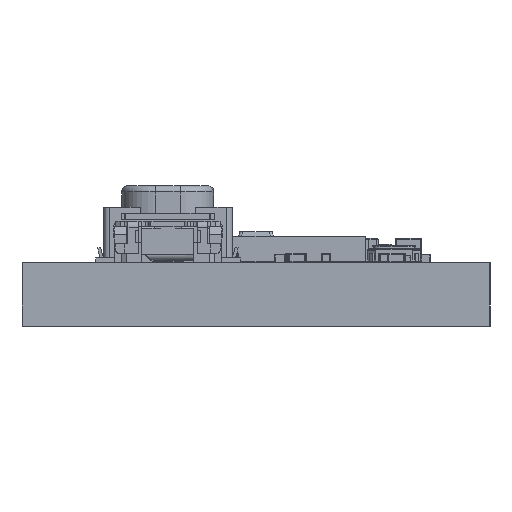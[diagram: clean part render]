
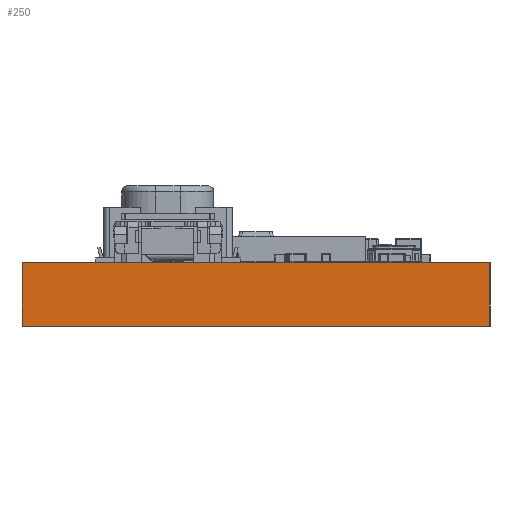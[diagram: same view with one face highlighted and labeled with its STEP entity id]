
A CAD part, left-side view. The second image highlights one B-rep face of the part: STEP entity #250.
In plain terms, the highlighted planar face has unit normal (-1, 0, 0).
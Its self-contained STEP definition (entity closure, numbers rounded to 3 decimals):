
#250 = ADVANCED_FACE('',(#251),#285,.T.);
#251 = FACE_BOUND('',#252,.T.);
#252 = EDGE_LOOP('',(#253,#263,#271,#279));
#253 = ORIENTED_EDGE('',*,*,#254,.T.);
#254 = EDGE_CURVE('',#255,#257,#259,.T.);
#255 = VERTEX_POINT('',#256);
#256 = CARTESIAN_POINT('',(0.,-7.62,0.));
#257 = VERTEX_POINT('',#258);
#258 = CARTESIAN_POINT('',(0.,-7.62,2.072));
#259 = LINE('',#260,#261);
#260 = CARTESIAN_POINT('',(0.,-7.62,0.));
#261 = VECTOR('',#262,1.);
#262 = DIRECTION('',(0.,0.,1.));
#263 = ORIENTED_EDGE('',*,*,#264,.T.);
#264 = EDGE_CURVE('',#257,#265,#267,.T.);
#265 = VERTEX_POINT('',#266);
#266 = CARTESIAN_POINT('',(0.,7.62,2.072));
#267 = LINE('',#268,#269);
#268 = CARTESIAN_POINT('',(0.,-7.62,2.072));
#269 = VECTOR('',#270,1.);
#270 = DIRECTION('',(0.,1.,0.));
#271 = ORIENTED_EDGE('',*,*,#272,.F.);
#272 = EDGE_CURVE('',#273,#265,#275,.T.);
#273 = VERTEX_POINT('',#274);
#274 = CARTESIAN_POINT('',(0.,7.62,0.));
#275 = LINE('',#276,#277);
#276 = CARTESIAN_POINT('',(0.,7.62,0.));
#277 = VECTOR('',#278,1.);
#278 = DIRECTION('',(0.,0.,1.));
#279 = ORIENTED_EDGE('',*,*,#280,.F.);
#280 = EDGE_CURVE('',#255,#273,#281,.T.);
#281 = LINE('',#282,#283);
#282 = CARTESIAN_POINT('',(0.,-7.62,0.));
#283 = VECTOR('',#284,1.);
#284 = DIRECTION('',(0.,1.,0.));
#285 = PLANE('',#286);
#286 = AXIS2_PLACEMENT_3D('',#287,#288,#289);
#287 = CARTESIAN_POINT('',(0.,-7.62,0.));
#288 = DIRECTION('',(-1.,0.,0.));
#289 = DIRECTION('',(0.,1.,0.));
